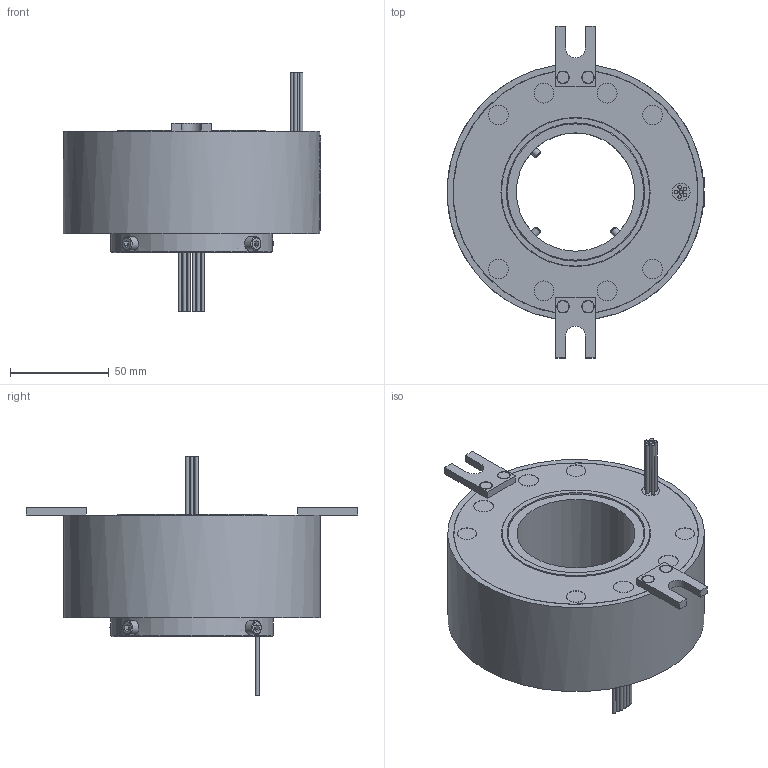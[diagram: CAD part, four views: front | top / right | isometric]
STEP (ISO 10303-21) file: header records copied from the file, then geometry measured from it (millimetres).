
FILE_DESCRIPTION(/* description */ (''),/* implementation_level */ '2;1');
FILE_NAME(/* name */ 'YD60130-0610-3D模型.stp',/* time_stamp */ '2025-09-04T13:33:37+08:00',/* author */ (''),/* organization */ (''),/* preprocessor_version */ 'ST-DEVELOPER v16.7',/* originating_system */ 'SIEMENS PLM Software NX 12.0',/* authorisation */ '');
FILE_SCHEMA (('AUTOMOTIVE_DESIGN { 1 0 10303 214 3 1 1 1 }'));
Length unit declared in the file: millimetre
Products named in the file (1): Admi82E4D60F1jf4
Bounding box: 130.5 x 168 x 121.3 mm (x, y, z)
Volume: 572540.9 mm3; surface area: 63600 mm2
Topology: 1 solids, 5 shells, 914 faces, 2427 edges, 1615 vertices
Faces by surface type: extrusion 452, plane 332, cylinder 79, bspline 33, cone 14, torus 4
Full cylindrical faces by diameter (mm): 1.8 x12, 3 x4, 3.4 x1, 3.5 x4, 4 x7, 6 x4, 7 x4, 9 x1, 10 x8, 59.9 x1, 70 x1, 75 x1, 75.5 x1, 82 x1, 123.8 x2, 124 x2, 130 x1
Entity records: 36035 total; most frequent: CARTESIAN_POINT 16997, ORIENTED_EDGE 4652, EDGE_CURVE 2326, B_SPLINE_CURVE_WITH_KNOTS 2203, DIRECTION 2180, VERTEX_POINT 1587, EDGE_LOOP 1093, ADVANCED_FACE 914
